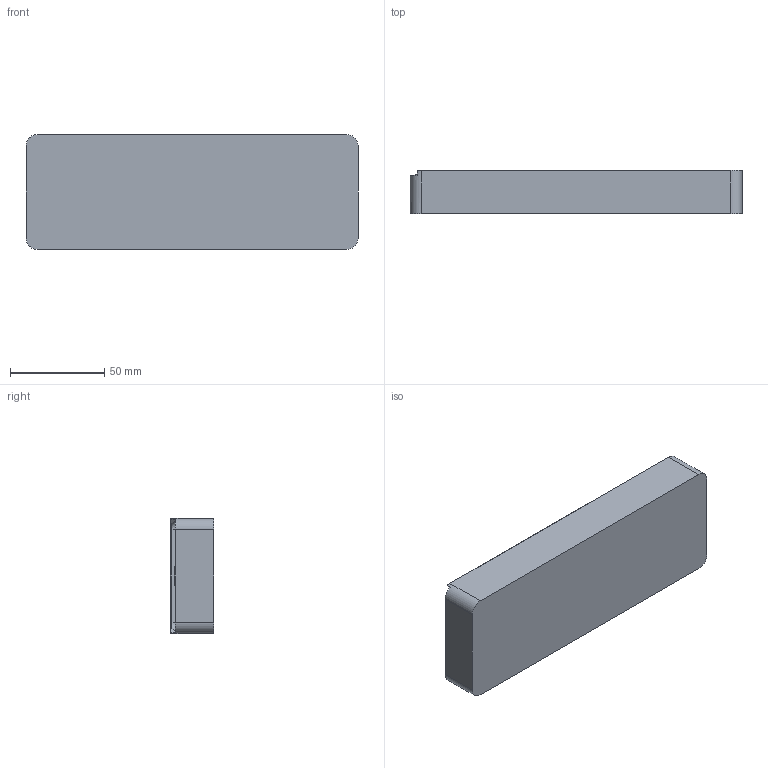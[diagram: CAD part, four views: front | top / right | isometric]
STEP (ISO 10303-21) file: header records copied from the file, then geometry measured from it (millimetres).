
FILE_DESCRIPTION(/* description */ (''),/* implementation_level */ '2;1');
FILE_NAME(/* name */ 'Cutlery F4 v27 - BOX.step',/* time_stamp */ '2023-10-26T15:19:40+11:00',/* author */ (''),/* organization */ (''),/* preprocessor_version */ 'ST-DEVELOPER v20',/* originating_system */ 'Autodesk Translation Framework v12.14.0.127',/* authorisation */ '');
FILE_SCHEMA (('AUTOMOTIVE_DESIGN { 1 0 10303 214 3 1 1 }'));
Length unit declared in the file: millimetre
Products named in the file (2): Cutlery F4; Box
Assembly tree (1 placements, depth 2):
  Cutlery F4
    Box
Bounding box: 176 x 23 x 61 mm (x, y, z)
Volume: 48777 mm3; surface area: 42048.7 mm2
Topology: 1 solids, 1 shells, 51 faces, 130 edges, 82 vertices
Faces by surface type: plane 32, cylinder 11, cone 8
Entity records: 1581 total; most frequent: CARTESIAN_POINT 272, DIRECTION 270, ORIENTED_EDGE 260, EDGE_CURVE 130, LINE 94, VECTOR 94, AXIS2_PLACEMENT_3D 88, VERTEX_POINT 82
